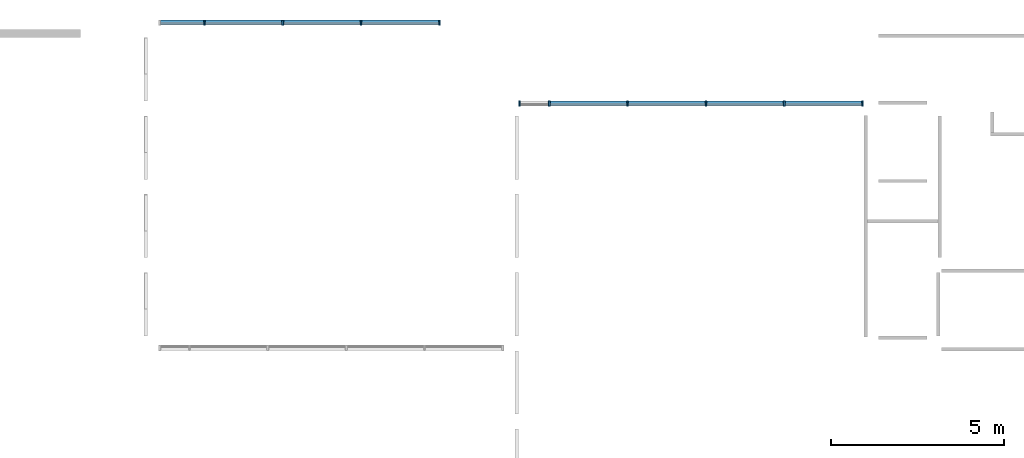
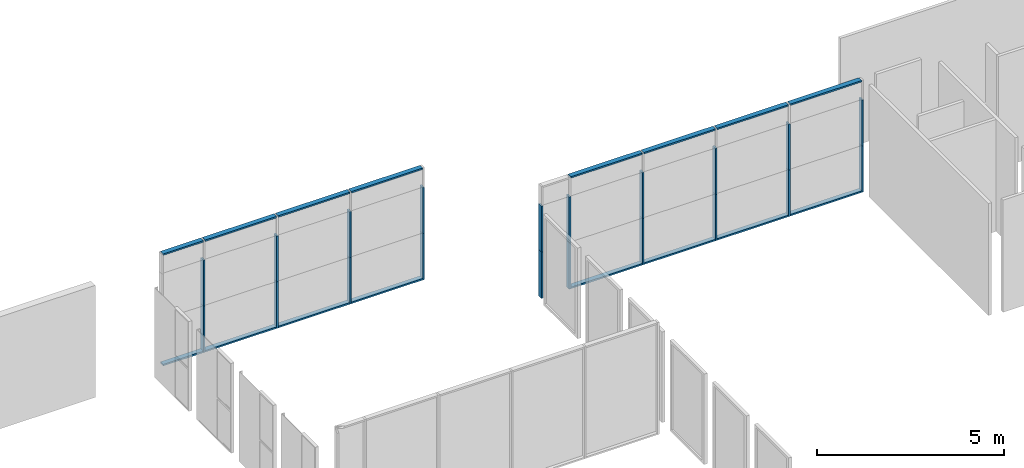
# One storey, part 4 of 15: 36 members, 2 elements without a shape of their own.
"""IFC2X3 building model written with IfcOpenShell, lengths in millimetres."""

from ifc_helpers import new_model, entity, si_unit, converted_unit, derived_unit, direction, frame, origin, origin_2d_with_axis, place, context, subcontext, project, spatial, rectangle, extrude, source, transform, mapped, material, type_object, type_shapes, element, aggregate, save


model = new_model("IFC2X3")

# Units and contexts
model_context = context("Model", 3, precision=0.01, world=origin(), true_north=direction((6.12303176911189e-17, 1.0)))
body_context = subcontext(model_context, "Body", "Model", "MODEL_VIEW")
ifc_project = project(units=[si_unit("LENGTHUNIT", "METRE", prefix="MILLI"), si_unit("AREAUNIT", "SQUARE_METRE"), si_unit("VOLUMEUNIT", "CUBIC_METRE"), converted_unit("PLANEANGLEUNIT", "DEGREE", entity("IfcRatioMeasure", 0.0174532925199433), si_unit("PLANEANGLEUNIT", "RADIAN"), dimensions=[0, 0, 0, 0, 0, 0, 0]), si_unit("MASSUNIT", "GRAM", prefix="KILO"), derived_unit("MASSDENSITYUNIT", [(si_unit("MASSUNIT", "GRAM", prefix="KILO"), 1), (si_unit("LENGTHUNIT", "METRE"), -3)]), derived_unit("MOMENTOFINERTIAUNIT", [(si_unit("LENGTHUNIT", "METRE"), 4)]), si_unit("TIMEUNIT", "SECOND"), si_unit("FREQUENCYUNIT", "HERTZ"), si_unit("THERMODYNAMICTEMPERATUREUNIT", "DEGREE_CELSIUS"), derived_unit("THERMALTRANSMITTANCEUNIT", [(si_unit("MASSUNIT", "GRAM", prefix="KILO"), 1), (si_unit("THERMODYNAMICTEMPERATUREUNIT", "KELVIN"), -1), (si_unit("TIMEUNIT", "SECOND"), -3)]), derived_unit("VOLUMETRICFLOWRATEUNIT", [(si_unit("LENGTHUNIT", "METRE"), 3), (si_unit("TIMEUNIT", "SECOND"), -1)]), si_unit("ELECTRICCURRENTUNIT", "AMPERE"), si_unit("ELECTRICVOLTAGEUNIT", "VOLT"), si_unit("POWERUNIT", "WATT"), si_unit("FORCEUNIT", "NEWTON", prefix="KILO"), si_unit("ILLUMINANCEUNIT", "LUX"), si_unit("LUMINOUSFLUXUNIT", "LUMEN"), si_unit("LUMINOUSINTENSITYUNIT", "CANDELA"), derived_unit("USERDEFINED", [(si_unit("MASSUNIT", "GRAM", prefix="KILO"), -1), (si_unit("LENGTHUNIT", "METRE"), -2), (si_unit("TIMEUNIT", "SECOND"), 3), (si_unit("LUMINOUSFLUXUNIT", "LUMEN"), 1)]), derived_unit("LINEARVELOCITYUNIT", [(si_unit("LENGTHUNIT", "METRE"), 1), (si_unit("TIMEUNIT", "SECOND"), -1)]), si_unit("PRESSUREUNIT", "PASCAL"), derived_unit("USERDEFINED", [(si_unit("LENGTHUNIT", "METRE"), -2), (si_unit("MASSUNIT", "GRAM", prefix="KILO"), 1), (si_unit("TIMEUNIT", "SECOND"), -2)]), derived_unit("LINEARFORCEUNIT", [(si_unit("MASSUNIT", "GRAM", prefix="KILO"), 1), (si_unit("LENGTHUNIT", "METRE"), 1), (si_unit("TIMEUNIT", "SECOND"), -2), (si_unit("LENGTHUNIT", "METRE"), -1)]), derived_unit("PLANARFORCEUNIT", [(si_unit("MASSUNIT", "GRAM", prefix="KILO"), 1), (si_unit("LENGTHUNIT", "METRE"), 1), (si_unit("TIMEUNIT", "SECOND"), -2), (si_unit("LENGTHUNIT", "METRE"), -2)])], contexts=[model_context])

# Site, building, storey
site_placement = place(None, frame((10627.5135316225, 21939.0796949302, 0.0)))
site = spatial("IfcSite", under=ifc_project, at=site_placement, Name="Default", CompositionType="ELEMENT")
building_placement = place(site_placement, origin())
building = spatial("IfcBuilding", under=site, at=building_placement, CompositionType="ELEMENT")
storey_placement = place(building_placement, origin())
storey = spatial("IfcBuildingStorey", under=building, at=storey_placement, Name="RDC", CompositionType="ELEMENT", Elevation=0.0)

# Curtain wall, members
curtain_wall_type = type_object("IfcCurtainWallType", Name="Curtain Wall:Curtain_Wall-Empty", PredefinedType="NOTDEFINED")
curtain_wall_1_placement = place(storey_placement, origin())
curtain_wall_1 = element("IfcCurtainWall", 1, at=curtain_wall_1_placement, inside=storey, type_object=curtain_wall_type, Name="Curtain Wall:Curtain_Wall-Empty", ObjectType="Curtain Wall:Curtain_Wall-Empty")
ifc_material = material(Name="Aluminium")
member_type_1 = type_object("IfcMemberType", Name="Rectangular Mullion:50x150mm", PredefinedType="MULLION", material=ifc_material)
shared_shape_1 = source(origin(), body_context, "Body", "SweptSolid", [
    extrude(rectangle(XDim=150.0, YDim=50.0, at=origin_2d_with_axis()), frame((-25.0, 0.0, -1515.0), z_axis=(0.0, 0.0, 1.0), x_axis=(0.0, -1.0, 0.0)), (0.0, 0.0, 1.0), 1515.0),
])
type_shapes(member_type_1, [shared_shape_1])
member_1_placement = place(storey_placement, frame((41407.4864683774, 14360.9203050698, 0.0), z_axis=(0.0, 0.0, -1.0), x_axis=(-1.0, 0.0, 0.0)))
member_1 = element("IfcMember", 2, at=member_1_placement, type_object=member_type_1, material=ifc_material, Name="Rectangular Mullion:50x150mm", ObjectType="Rectangular Mullion:50x150mm", context=body_context, shape_type="MappedRepresentation", body=[
    mapped(shared_shape_1, transform((0.0, 0.0, 0.0), scale=1.0)),
])
member_type_2 = type_object("IfcMemberType", Name="Rectangular Mullion:50x150mm", PredefinedType="MULLION", material=ifc_material)
shared_shape_2 = source(origin(), body_context, "Body", "SweptSolid", [
    extrude(rectangle(XDim=150.0, YDim=50.0, at=origin_2d_with_axis()), frame((-25.0, 0.0, -1500.0), z_axis=(0.0, 0.0, 1.0), x_axis=(0.0, -1.0, 0.0)), (0.0, 0.0, 1.0), 1500.0),
])
type_shapes(member_type_2, [shared_shape_2])
member_2_placement = place(storey_placement, frame((41407.4864683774, 14360.9203050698, 1515.0), z_axis=(0.0, 0.0, -1.0), x_axis=(-1.0, 0.0, 0.0)))
member_2 = element("IfcMember", 3, at=member_2_placement, type_object=member_type_2, material=ifc_material, Name="Rectangular Mullion:50x150mm", ObjectType="Rectangular Mullion:50x150mm", context=body_context, shape_type="MappedRepresentation", body=[
    mapped(shared_shape_2, transform((0.0, 0.0, 0.0), scale=1.0)),
])

# Curtain wall, member
curtain_wall_2_placement = place(storey_placement, origin())
curtain_wall_2 = element("IfcCurtainWall", 4, at=curtain_wall_2_placement, inside=storey, type_object=curtain_wall_type, Name="Curtain Wall:Curtain_Wall-Empty", ObjectType="Curtain Wall:Curtain_Wall-Empty")
member_type_3 = type_object("IfcMemberType", Name="Rectangular Mullion:50x150mm", PredefinedType="MULLION", material=ifc_material)
shared_shape_3 = source(origin(), body_context, "Body", "SweptSolid", [
    extrude(rectangle(XDim=150.0, YDim=50.0, at=origin_2d_with_axis()), frame((-25.0, 0.0, -1515.0), z_axis=(0.0, 0.0, 1.0), x_axis=(0.0, -1.0, 0.0)), (0.0, 0.0, 1.0), 1515.0),
])
type_shapes(member_type_3, [shared_shape_3])
member_3_placement = place(storey_placement, frame((39147.4864683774, 16695.9203050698, 1515.0)))
member_3 = element("IfcMember", 5, at=member_3_placement, type_object=member_type_3, material=ifc_material, Name="Rectangular Mullion:50x150mm", ObjectType="Rectangular Mullion:50x150mm", context=body_context, shape_type="MappedRepresentation", body=[
    mapped(shared_shape_3, transform((0.0, 0.0, 0.0), scale=1.0)),
])

# Member
member_4_placement = place(storey_placement, frame((51357.4864683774, 14360.9203050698, 1515.0)))
member_4 = element("IfcMember", 6, at=member_4_placement, type_object=member_type_3, material=ifc_material, Name="Rectangular Mullion:50x150mm", ObjectType="Rectangular Mullion:50x150mm", context=body_context, shape_type="MappedRepresentation", body=[
    mapped(shared_shape_3, transform((0.0, 0.0, 0.0), scale=1.0)),
])

member_type_4 = type_object("IfcMemberType", Name="Rectangular Mullion:50x150mm", PredefinedType="MULLION", material=ifc_material)
shared_shape_4 = source(origin(), body_context, "Body", "SweptSolid", [
    extrude(rectangle(XDim=150.0, YDim=50.0, at=origin_2d_with_axis()), frame((-25.0, 0.0, -1500.0), z_axis=(0.0, 0.0, 1.0), x_axis=(0.0, -1.0, 0.0)), (0.0, 0.0, 1.0), 1500.0),
])
type_shapes(member_type_4, [shared_shape_4])
member_5_placement = place(storey_placement, frame((39147.4864683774, 16695.9203050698, 3015.0)))
member_5 = element("IfcMember", 7, at=member_5_placement, type_object=member_type_4, material=ifc_material, Name="Rectangular Mullion:50x150mm", ObjectType="Rectangular Mullion:50x150mm", context=body_context, shape_type="MappedRepresentation", body=[
    mapped(shared_shape_4, transform((0.0, 0.0, 0.0), scale=1.0)),
])

member_6_placement = place(storey_placement, frame((51357.4864683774, 14360.9203050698, 3015.0)))
member_6 = element("IfcMember", 8, at=member_6_placement, type_object=member_type_4, material=ifc_material, Name="Rectangular Mullion:50x150mm", ObjectType="Rectangular Mullion:50x150mm", context=body_context, shape_type="MappedRepresentation", body=[
    mapped(shared_shape_4, transform((0.0, 0.0, 0.0), scale=1.0)),
])

member_type_5 = type_object("IfcMemberType", Name="Rectangular Mullion:50x150mm", PredefinedType="MULLION", material=ifc_material)
shared_shape_5 = source(origin(), body_context, "Body", "SweptSolid", [
    extrude(rectangle(XDim=150.0, YDim=50.0, at=origin_2d_with_axis()), frame((0.0, 0.0, -1515.0), z_axis=(0.0, 0.0, 1.0), x_axis=(0.0, -1.0, 0.0)), (0.0, 0.0, 1.0), 1515.0),
])
type_shapes(member_type_5, [shared_shape_5])
member_7_placement = place(storey_placement, frame((36862.4864680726, 16695.9203050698, 0.0), z_axis=(0.0, 0.0, -1.0), x_axis=(-1.0, 0.0, 0.0)))
member_7 = element("IfcMember", 9, at=member_7_placement, type_object=member_type_5, material=ifc_material, Name="Rectangular Mullion:50x150mm", ObjectType="Rectangular Mullion:50x150mm", context=body_context, shape_type="MappedRepresentation", body=[
    mapped(shared_shape_5, transform((0.0, 0.0, 0.0), scale=1.0)),
])

member_8_placement = place(storey_placement, frame((34602.4864680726, 16695.9203050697, 0.0), z_axis=(0.0, 0.0, -1.0), x_axis=(-1.0, 0.0, 0.0)))
member_8 = element("IfcMember", 10, at=member_8_placement, type_object=member_type_5, material=ifc_material, Name="Rectangular Mullion:50x150mm", ObjectType="Rectangular Mullion:50x150mm", context=body_context, shape_type="MappedRepresentation", body=[
    mapped(shared_shape_5, transform((0.0, 0.0, 0.0), scale=1.0)),
])

member_9_placement = place(storey_placement, frame((32342.4864680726, 16695.9203050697, 0.0), z_axis=(0.0, 0.0, -1.0), x_axis=(-1.0, 0.0, 0.0)))
member_9 = element("IfcMember", 11, at=member_9_placement, type_object=member_type_5, material=ifc_material, Name="Rectangular Mullion:50x150mm", ObjectType="Rectangular Mullion:50x150mm", context=body_context, shape_type="MappedRepresentation", body=[
    mapped(shared_shape_5, transform((0.0, 0.0, 0.0), scale=1.0)),
])

member_10_placement = place(storey_placement, frame((49072.4864680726, 14360.9203050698, 0.0), z_axis=(0.0, 0.0, -1.0), x_axis=(-1.0, 0.0, 0.0)))
member_10 = element("IfcMember", 12, at=member_10_placement, type_object=member_type_5, material=ifc_material, Name="Rectangular Mullion:50x150mm", ObjectType="Rectangular Mullion:50x150mm", context=body_context, shape_type="MappedRepresentation", body=[
    mapped(shared_shape_5, transform((0.0, 0.0, 0.0), scale=1.0)),
])

member_11_placement = place(storey_placement, frame((46812.4864680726, 14360.9203050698, 0.0), z_axis=(0.0, 0.0, -1.0), x_axis=(-1.0, 0.0, 0.0)))
member_11 = element("IfcMember", 13, at=member_11_placement, type_object=member_type_5, material=ifc_material, Name="Rectangular Mullion:50x150mm", ObjectType="Rectangular Mullion:50x150mm", context=body_context, shape_type="MappedRepresentation", body=[
    mapped(shared_shape_5, transform((0.0, 0.0, 0.0), scale=1.0)),
])

member_12_placement = place(storey_placement, frame((44552.4864680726, 14360.9203050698, 0.0), z_axis=(0.0, 0.0, -1.0), x_axis=(-1.0, 0.0, 0.0)))
member_12 = element("IfcMember", 14, at=member_12_placement, type_object=member_type_5, material=ifc_material, Name="Rectangular Mullion:50x150mm", ObjectType="Rectangular Mullion:50x150mm", context=body_context, shape_type="MappedRepresentation", body=[
    mapped(shared_shape_5, transform((0.0, 0.0, 0.0), scale=1.0)),
])

member_type_6 = type_object("IfcMemberType", Name="Rectangular Mullion:50x150mm", PredefinedType="MULLION", material=ifc_material)
shared_shape_6 = source(origin(), body_context, "Body", "SweptSolid", [
    extrude(rectangle(XDim=150.0, YDim=50.0, at=origin_2d_with_axis()), frame((0.0, 0.0, -1500.0), z_axis=(0.0, 0.0, 1.0), x_axis=(0.0, -1.0, 0.0)), (0.0, 0.0, 1.0), 1500.0),
])
type_shapes(member_type_6, [shared_shape_6])
member_13_placement = place(storey_placement, frame((36862.4864680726, 16695.9203050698, 1515.0), z_axis=(0.0, 0.0, -1.0), x_axis=(-1.0, 0.0, 0.0)))
member_13 = element("IfcMember", 15, at=member_13_placement, type_object=member_type_6, material=ifc_material, Name="Rectangular Mullion:50x150mm", ObjectType="Rectangular Mullion:50x150mm", context=body_context, shape_type="MappedRepresentation", body=[
    mapped(shared_shape_6, transform((0.0, 0.0, 0.0), scale=1.0)),
])

member_14_placement = place(storey_placement, frame((34602.4864680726, 16695.9203050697, 1515.0), z_axis=(0.0, 0.0, -1.0), x_axis=(-1.0, 0.0, 0.0)))
member_14 = element("IfcMember", 16, at=member_14_placement, type_object=member_type_6, material=ifc_material, Name="Rectangular Mullion:50x150mm", ObjectType="Rectangular Mullion:50x150mm", context=body_context, shape_type="MappedRepresentation", body=[
    mapped(shared_shape_6, transform((0.0, 0.0, 0.0), scale=1.0)),
])

member_15_placement = place(storey_placement, frame((32342.4864680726, 16695.9203050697, 1515.0), z_axis=(0.0, 0.0, -1.0), x_axis=(-1.0, 0.0, 0.0)))
member_15 = element("IfcMember", 17, at=member_15_placement, type_object=member_type_6, material=ifc_material, Name="Rectangular Mullion:50x150mm", ObjectType="Rectangular Mullion:50x150mm", context=body_context, shape_type="MappedRepresentation", body=[
    mapped(shared_shape_6, transform((0.0, 0.0, 0.0), scale=1.0)),
])

member_16_placement = place(storey_placement, frame((49072.4864680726, 14360.9203050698, 1515.0), z_axis=(0.0, 0.0, -1.0), x_axis=(-1.0, 0.0, 0.0)))
member_16 = element("IfcMember", 18, at=member_16_placement, type_object=member_type_6, material=ifc_material, Name="Rectangular Mullion:50x150mm", ObjectType="Rectangular Mullion:50x150mm", context=body_context, shape_type="MappedRepresentation", body=[
    mapped(shared_shape_6, transform((0.0, 0.0, 0.0), scale=1.0)),
])

member_17_placement = place(storey_placement, frame((46812.4864680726, 14360.9203050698, 1515.0), z_axis=(0.0, 0.0, -1.0), x_axis=(-1.0, 0.0, 0.0)))
member_17 = element("IfcMember", 19, at=member_17_placement, type_object=member_type_6, material=ifc_material, Name="Rectangular Mullion:50x150mm", ObjectType="Rectangular Mullion:50x150mm", context=body_context, shape_type="MappedRepresentation", body=[
    mapped(shared_shape_6, transform((0.0, 0.0, 0.0), scale=1.0)),
])

member_18_placement = place(storey_placement, frame((44552.4864680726, 14360.9203050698, 1515.0), z_axis=(0.0, 0.0, -1.0), x_axis=(-1.0, 0.0, 0.0)))
member_18 = element("IfcMember", 20, at=member_18_placement, type_object=member_type_6, material=ifc_material, Name="Rectangular Mullion:50x150mm", ObjectType="Rectangular Mullion:50x150mm", context=body_context, shape_type="MappedRepresentation", body=[
    mapped(shared_shape_6, transform((0.0, 0.0, 0.0), scale=1.0)),
])

member_type_7 = type_object("IfcMemberType", Name="Rectangular Mullion:50x150mm", PredefinedType="MULLION", material=ifc_material)
shared_shape_7 = source(origin(), body_context, "Body", "SweptSolid", [
    extrude(rectangle(XDim=150.0, YDim=50.0, at=origin_2d_with_axis()), frame((-25.0, 0.0, -1240.0), z_axis=(0.0, 0.0, 1.0), x_axis=(0.0, -1.0, 0.0)), (0.0, 0.0, 1.0), 1239.99999969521),
])
type_shapes(member_type_7, [shared_shape_7])
member_19_placement = place(storey_placement, frame((31077.4864683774, 16695.9203050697, 3660.0), z_axis=(-1.0, 0.0, 0.0), x_axis=(0.0, 0.0, 1.0)))
member_19 = element("IfcMember", 21, at=member_19_placement, type_object=member_type_7, material=ifc_material, Name="Rectangular Mullion:50x150mm", ObjectType="Rectangular Mullion:50x150mm", context=body_context, shape_type="MappedRepresentation", body=[
    mapped(shared_shape_7, transform((0.0, 0.0, 0.0), scale=1.0)),
])

member_type_8 = type_object("IfcMemberType", Name="Rectangular Mullion:50x150mm", PredefinedType="MULLION", material=ifc_material)
shared_shape_8 = source(origin(), body_context, "Body", "SweptSolid", [
    extrude(rectangle(XDim=150.0, YDim=50.0, at=origin_2d_with_axis()), frame((-25.0, 0.0, -2210.0), z_axis=(0.0, 0.0, 1.0), x_axis=(0.0, -1.0, 0.0)), (0.0, 0.0, 1.0), 2210.0000003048),
])
type_shapes(member_type_8, [shared_shape_8])
member_20_placement = place(storey_placement, frame((36887.4864680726, 16695.9203050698, 3660.0), z_axis=(-1.0, 0.0, 0.0), x_axis=(0.0, 0.0, 1.0)))
member_20 = element("IfcMember", 22, at=member_20_placement, type_object=member_type_8, material=ifc_material, Name="Rectangular Mullion:50x150mm", ObjectType="Rectangular Mullion:50x150mm", context=body_context, shape_type="MappedRepresentation", body=[
    mapped(shared_shape_8, transform((0.0, 0.0, 0.0), scale=1.0)),
])

member_21_placement = place(storey_placement, frame((34627.4864680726, 16695.9203050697, 3660.0), z_axis=(-1.0, 0.0, 0.0), x_axis=(0.0, 0.0, 1.0)))
member_21 = element("IfcMember", 23, at=member_21_placement, type_object=member_type_8, material=ifc_material, Name="Rectangular Mullion:50x150mm", ObjectType="Rectangular Mullion:50x150mm", context=body_context, shape_type="MappedRepresentation", body=[
    mapped(shared_shape_8, transform((0.0, 0.0, 0.0), scale=1.0)),
])

member_22_placement = place(storey_placement, frame((32367.4864680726, 16695.9203050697, 3660.0), z_axis=(-1.0, 0.0, 0.0), x_axis=(0.0, 0.0, 1.0)))
member_22 = element("IfcMember", 24, at=member_22_placement, type_object=member_type_8, material=ifc_material, Name="Rectangular Mullion:50x150mm", ObjectType="Rectangular Mullion:50x150mm", context=body_context, shape_type="MappedRepresentation", body=[
    mapped(shared_shape_8, transform((0.0, 0.0, 0.0), scale=1.0)),
])

member_23_placement = place(storey_placement, frame((49097.4864680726, 14360.9203050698, 3660.0), z_axis=(-1.0, 0.0, 0.0), x_axis=(0.0, 0.0, 1.0)))
member_23 = element("IfcMember", 25, at=member_23_placement, type_object=member_type_8, material=ifc_material, Name="Rectangular Mullion:50x150mm", ObjectType="Rectangular Mullion:50x150mm", context=body_context, shape_type="MappedRepresentation", body=[
    mapped(shared_shape_8, transform((0.0, 0.0, 0.0), scale=1.0)),
])

member_24_placement = place(storey_placement, frame((46837.4864680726, 14360.9203050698, 3660.0), z_axis=(-1.0, 0.0, 0.0), x_axis=(0.0, 0.0, 1.0)))
member_24 = element("IfcMember", 26, at=member_24_placement, type_object=member_type_8, material=ifc_material, Name="Rectangular Mullion:50x150mm", ObjectType="Rectangular Mullion:50x150mm", context=body_context, shape_type="MappedRepresentation", body=[
    mapped(shared_shape_8, transform((0.0, 0.0, 0.0), scale=1.0)),
])

member_25_placement = place(storey_placement, frame((44577.4864680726, 14360.9203050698, 3660.0), z_axis=(-1.0, 0.0, 0.0), x_axis=(0.0, 0.0, 1.0)))
member_25 = element("IfcMember", 27, at=member_25_placement, type_object=member_type_8, material=ifc_material, Name="Rectangular Mullion:50x150mm", ObjectType="Rectangular Mullion:50x150mm", context=body_context, shape_type="MappedRepresentation", body=[
    mapped(shared_shape_8, transform((0.0, 0.0, 0.0), scale=1.0)),
])

member_type_9 = type_object("IfcMemberType", Name="Rectangular Mullion:50x150mm", PredefinedType="MULLION", material=ifc_material)
shared_shape_9 = source(origin(), body_context, "Body", "SweptSolid", [
    extrude(rectangle(XDim=150.0, YDim=50.0, at=origin_2d_with_axis()), frame((-25.0, 0.0, -2210.0), z_axis=(0.0, 0.0, 1.0), x_axis=(0.0, -1.0, 0.0)), (0.0, 0.0, 1.0), 2210.0000003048),
])
type_shapes(member_type_9, [shared_shape_9])
member_26_placement = place(storey_placement, frame((39097.4864683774, 16695.9203050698, 0.0), z_axis=(1.0, 0.0, 0.0), x_axis=(0.0, 0.0, -1.0)))
member_26 = element("IfcMember", 28, at=member_26_placement, type_object=member_type_9, material=ifc_material, Name="Rectangular Mullion:50x150mm", ObjectType="Rectangular Mullion:50x150mm", context=body_context, shape_type="MappedRepresentation", body=[
    mapped(shared_shape_9, transform((0.0, 0.0, 0.0), scale=1.0)),
])

member_27_placement = place(storey_placement, frame((36837.4864680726, 16695.9203050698, 0.0), z_axis=(1.0, 0.0, 0.0), x_axis=(0.0, 0.0, -1.0)))
member_27 = element("IfcMember", 29, at=member_27_placement, type_object=member_type_9, material=ifc_material, Name="Rectangular Mullion:50x150mm", ObjectType="Rectangular Mullion:50x150mm", context=body_context, shape_type="MappedRepresentation", body=[
    mapped(shared_shape_9, transform((0.0, 0.0, 0.0), scale=1.0)),
])

member_28_placement = place(storey_placement, frame((34577.4864680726, 16695.9203050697, 0.0), z_axis=(1.0, 0.0, 0.0), x_axis=(0.0, 0.0, -1.0)))
member_28 = element("IfcMember", 30, at=member_28_placement, type_object=member_type_9, material=ifc_material, Name="Rectangular Mullion:50x150mm", ObjectType="Rectangular Mullion:50x150mm", context=body_context, shape_type="MappedRepresentation", body=[
    mapped(shared_shape_9, transform((0.0, 0.0, 0.0), scale=1.0)),
])

member_29_placement = place(storey_placement, frame((51307.4864683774, 14360.9203050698, 0.0), z_axis=(1.0, 0.0, 0.0), x_axis=(0.0, 0.0, -1.0)))
member_29 = element("IfcMember", 31, at=member_29_placement, type_object=member_type_9, material=ifc_material, Name="Rectangular Mullion:50x150mm", ObjectType="Rectangular Mullion:50x150mm", context=body_context, shape_type="MappedRepresentation", body=[
    mapped(shared_shape_9, transform((0.0, 0.0, 0.0), scale=1.0)),
])

member_30_placement = place(storey_placement, frame((49047.4864680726, 14360.9203050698, 0.0), z_axis=(1.0, 0.0, 0.0), x_axis=(0.0, 0.0, -1.0)))
member_30 = element("IfcMember", 32, at=member_30_placement, type_object=member_type_9, material=ifc_material, Name="Rectangular Mullion:50x150mm", ObjectType="Rectangular Mullion:50x150mm", context=body_context, shape_type="MappedRepresentation", body=[
    mapped(shared_shape_9, transform((0.0, 0.0, 0.0), scale=1.0)),
])

member_31_placement = place(storey_placement, frame((46787.4864680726, 14360.9203050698, 0.0), z_axis=(1.0, 0.0, 0.0), x_axis=(0.0, 0.0, -1.0)))
member_31 = element("IfcMember", 33, at=member_31_placement, type_object=member_type_9, material=ifc_material, Name="Rectangular Mullion:50x150mm", ObjectType="Rectangular Mullion:50x150mm", context=body_context, shape_type="MappedRepresentation", body=[
    mapped(shared_shape_9, transform((0.0, 0.0, 0.0), scale=1.0)),
])

member_32_placement = place(storey_placement, frame((44527.4864680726, 14360.9203050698, 0.0), z_axis=(1.0, 0.0, 0.0), x_axis=(0.0, 0.0, -1.0)))
member_32 = element("IfcMember", 34, at=member_32_placement, type_object=member_type_9, material=ifc_material, Name="Rectangular Mullion:50x150mm", ObjectType="Rectangular Mullion:50x150mm", context=body_context, shape_type="MappedRepresentation", body=[
    mapped(shared_shape_9, transform((0.0, 0.0, 0.0), scale=1.0)),
])

member_type_10 = type_object("IfcMemberType", Name="Rectangular Mullion:50x150mm", PredefinedType="MULLION", material=ifc_material)
shared_shape_10 = source(origin(), body_context, "Body", "SweptSolid", [
    extrude(rectangle(XDim=150.0, YDim=50.0, at=origin_2d_with_axis()), frame((-25.0, 0.0, -1240.0), z_axis=(0.0, 0.0, 1.0), x_axis=(0.0, -1.0, 0.0)), (0.0, 0.0, 1.0), 1239.99999969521),
])
type_shapes(member_type_10, [shared_shape_10])
member_33_placement = place(storey_placement, frame((32317.4864680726, 16695.9203050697, 0.0), z_axis=(1.0, 0.0, 0.0), x_axis=(0.0, 0.0, -1.0)))
member_33 = element("IfcMember", 35, at=member_33_placement, type_object=member_type_10, material=ifc_material, Name="Rectangular Mullion:50x150mm", ObjectType="Rectangular Mullion:50x150mm", context=body_context, shape_type="MappedRepresentation", body=[
    mapped(shared_shape_10, transform((0.0, 0.0, 0.0), scale=1.0)),
])

aggregate(curtain_wall_2, [member_3, member_5, member_7, member_8, member_9, member_13, member_14, member_15, member_19, member_20, member_21, member_22, member_26, member_27, member_28, member_33])

member_type_11 = type_object("IfcMemberType", Name="Rectangular Mullion:50x150mm", PredefinedType="MULLION", material=ifc_material)
shared_shape_11 = source(origin(), body_context, "Body", "SweptSolid", [
    extrude(rectangle(XDim=150.0, YDim=50.0, at=origin_2d_with_axis()), frame((-25.0, 0.0, -2210.0), z_axis=(0.0, 0.0, 1.0), x_axis=(0.0, -1.0, 0.0)), (0.0, 0.0, 1.0), 2210.0),
])
type_shapes(member_type_11, [shared_shape_11])
member_34_placement = place(storey_placement, frame((42317.4864680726, 14360.9203050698, 3660.0), z_axis=(-1.0, 0.0, 0.0), x_axis=(0.0, 0.0, 1.0)))
member_34 = element("IfcMember", 36, at=member_34_placement, type_object=member_type_11, material=ifc_material, Name="Rectangular Mullion:50x150mm", ObjectType="Rectangular Mullion:50x150mm", context=body_context, shape_type="MappedRepresentation", body=[
    mapped(shared_shape_11, transform((0.0, 0.0, 0.0), scale=1.0)),
])

member_type_12 = type_object("IfcMemberType", Name="Rectangular Mullion:50x150mm", PredefinedType="MULLION", material=ifc_material)
shared_shape_12 = source(origin(), body_context, "Body", "SweptSolid", [
    extrude(rectangle(XDim=150.0, YDim=50.0, at=origin_2d_with_axis()), frame((0.0, 0.0, -1515.0), z_axis=(0.0, 0.0, 1.0), x_axis=(0.0, -1.0, 0.0)), (0.0, 0.0, 1.0), 1515.0),
])
type_shapes(member_type_12, [shared_shape_12])
member_35_placement = place(storey_placement, frame((42292.4864680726, 14360.9203050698, 0.0), z_axis=(0.0, 0.0, -1.0), x_axis=(-1.0, 0.0, 0.0)))
member_35 = element("IfcMember", 37, at=member_35_placement, type_object=member_type_12, material=ifc_material, Name="Rectangular Mullion:50x150mm", ObjectType="Rectangular Mullion:50x150mm", context=body_context, shape_type="MappedRepresentation", body=[
    mapped(shared_shape_12, transform((0.0, 0.0, 0.0), scale=1.0)),
])

member_type_13 = type_object("IfcMemberType", Name="Rectangular Mullion:50x150mm", PredefinedType="MULLION", material=ifc_material)
shared_shape_13 = source(origin(), body_context, "Body", "SweptSolid", [
    extrude(rectangle(XDim=150.0, YDim=50.0, at=origin_2d_with_axis()), frame((0.0, 0.0, -1500.0), z_axis=(0.0, 0.0, 1.0), x_axis=(0.0, -1.0, 0.0)), (0.0, 0.0, 1.0), 1500.0),
])
type_shapes(member_type_13, [shared_shape_13])
member_36_placement = place(storey_placement, frame((42292.4864680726, 14360.9203050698, 1515.0), z_axis=(0.0, 0.0, -1.0), x_axis=(-1.0, 0.0, 0.0)))
member_36 = element("IfcMember", 38, at=member_36_placement, type_object=member_type_13, material=ifc_material, Name="Rectangular Mullion:50x150mm", ObjectType="Rectangular Mullion:50x150mm", context=body_context, shape_type="MappedRepresentation", body=[
    mapped(shared_shape_13, transform((0.0, 0.0, 0.0), scale=1.0)),
])

aggregate(curtain_wall_1, [member_1, member_2, member_4, member_6, member_10, member_11, member_12, member_16, member_17, member_18, member_23, member_24, member_25, member_29, member_30, member_31, member_32, member_34, member_35, member_36])

save(model, "model.ifc")
